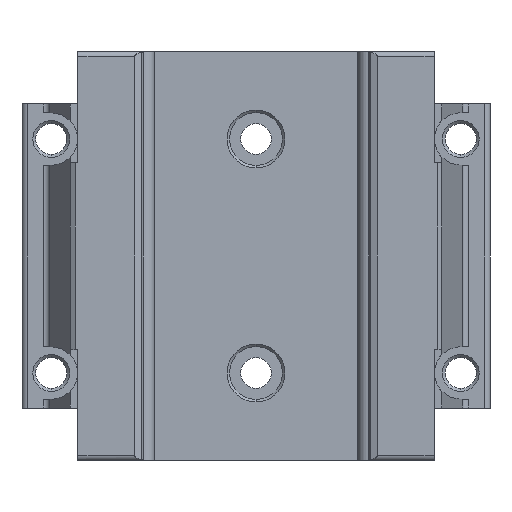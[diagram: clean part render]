
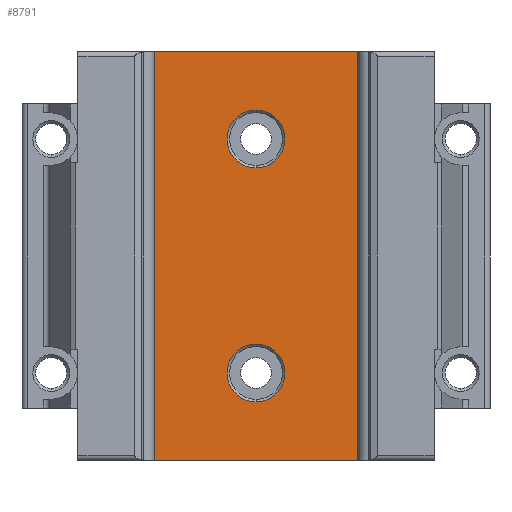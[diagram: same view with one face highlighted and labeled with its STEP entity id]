
A CAD part, front view. The second image highlights one B-rep face of the part: STEP entity #8791.
In plain terms, the highlighted planar face has unit normal (0, -1, 0).
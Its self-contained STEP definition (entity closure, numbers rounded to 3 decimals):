
#165 = CARTESIAN_POINT ( 'NONE',  ( 0., 7.5, 46. ) ) ;
#166 = DIRECTION ( 'NONE',  ( 0., -1., 0. ) ) ;
#167 = DIRECTION ( 'NONE',  ( 0., 0., -1. ) ) ;
#287 = CARTESIAN_POINT ( 'NONE',  ( 0., 7.5, 6. ) ) ;
#316 = DIRECTION ( 'NONE',  ( 0., -1., 0. ) ) ;
#317 = DIRECTION ( 'NONE',  ( 0., 0., -1. ) ) ;
#764 = EDGE_CURVE ( 'NONE', #14757, #14756, #7653, .T. ) ;
#890 = EDGE_CURVE ( 'NONE', #14598, #14610, #19767, .T. ) ;
#1017 = EDGE_CURVE ( 'NONE', #14518, #6530, #19872, .T. ) ;
#1152 = EDGE_CURVE ( 'NONE', #6460, #6483, #19948, .T. ) ;
#3229 = LINE ( 'NONE', #20753, #3230 ) ;
#3230 = VECTOR ( 'NONE', #20754, 1000. ) ;
#3235 = LINE ( 'NONE', #20759, #3236 ) ;
#3236 = VECTOR ( 'NONE', #20760, 1000. ) ;
#3239 = CIRCLE ( 'NONE', #15744, 4.95 ) ;
#3241 = CIRCLE ( 'NONE', #15743, 4.95 ) ;
#4404 = CARTESIAN_POINT ( 'NONE',  ( -19.075, 7.5, 60.95 ) ) ;
#4407 = DIRECTION ( 'NONE',  ( -1., 0., 0. ) ) ;
#4851 = CARTESIAN_POINT ( 'NONE',  ( -30.5, 7.5, -8.95 ) ) ;
#4852 = DIRECTION ( 'NONE',  ( 1., 0., 0. ) ) ;
#5876 = EDGE_LOOP ( 'NONE', ( #7228, #7229 ) ) ;
#5880 = EDGE_LOOP ( 'NONE', ( #7230, #7231 ) ) ;
#5882 = EDGE_LOOP ( 'NONE', ( #7232, #7233, #7234, #7235 ) ) ;
#6318 = FACE_BOUND ( 'NONE', #5876, .T. ) ;
#6322 = FACE_BOUND ( 'NONE', #5880, .T. ) ;
#6324 = FACE_OUTER_BOUND ( 'NONE', #5882, .T. ) ;
#6460 = VERTEX_POINT ( 'NONE', #22638 ) ;
#6483 = VERTEX_POINT ( 'NONE', #22652 ) ;
#6530 = VERTEX_POINT ( 'NONE', #22678 ) ;
#7228 = ORIENTED_EDGE ( 'NONE', *, *, #15125, .F. ) ;
#7229 = ORIENTED_EDGE ( 'NONE', *, *, #1017, .F. ) ;
#7230 = ORIENTED_EDGE ( 'NONE', *, *, #15126, .F. ) ;
#7231 = ORIENTED_EDGE ( 'NONE', *, *, #1152, .F. ) ;
#7232 = ORIENTED_EDGE ( 'NONE', *, *, #890, .T. ) ;
#7233 = ORIENTED_EDGE ( 'NONE', *, *, #15124, .T. ) ;
#7234 = ORIENTED_EDGE ( 'NONE', *, *, #764, .T. ) ;
#7235 = ORIENTED_EDGE ( 'NONE', *, *, #15121, .F. ) ;
#7653 = LINE ( 'NONE', #4404, #7670 ) ;
#7670 = VECTOR ( 'NONE', #4407, 1000. ) ;
#8791 = ADVANCED_FACE ( 'NONE', ( #6318, #6322, #6324 ), #17618, .F. ) ;
#11084 = CARTESIAN_POINT ( 'NONE',  ( 0., 7.5, 50.95 ) ) ;
#11164 = CARTESIAN_POINT ( 'NONE',  ( -19.075, 7.5, -8.95 ) ) ;
#11176 = CARTESIAN_POINT ( 'NONE',  ( 19.075, 7.5, -8.95 ) ) ;
#11322 = CARTESIAN_POINT ( 'NONE',  ( -19.075, 7.5, 60.95 ) ) ;
#11323 = CARTESIAN_POINT ( 'NONE',  ( 19.075, 7.5, 60.95 ) ) ;
#14518 = VERTEX_POINT ( 'NONE', #11084 ) ;
#14598 = VERTEX_POINT ( 'NONE', #11164 ) ;
#14610 = VERTEX_POINT ( 'NONE', #11176 ) ;
#14756 = VERTEX_POINT ( 'NONE', #11322 ) ;
#14757 = VERTEX_POINT ( 'NONE', #11323 ) ;
#15121 = EDGE_CURVE ( 'NONE', #14598, #14756, #3229, .T. ) ;
#15124 = EDGE_CURVE ( 'NONE', #14610, #14757, #3235, .T. ) ;
#15125 = EDGE_CURVE ( 'NONE', #6530, #14518, #3239, .T. ) ;
#15126 = EDGE_CURVE ( 'NONE', #6483, #6460, #3241, .T. ) ;
#15380 = AXIS2_PLACEMENT_3D ( 'NONE', #165, #166, #167 ) ;
#15411 = AXIS2_PLACEMENT_3D ( 'NONE', #287, #316, #317 ) ;
#15512 = AXIS2_PLACEMENT_3D ( 'NONE', #17622, #17623, #17624 ) ;
#15743 = AXIS2_PLACEMENT_3D ( 'NONE', #20729, #20765, #20766 ) ;
#15744 = AXIS2_PLACEMENT_3D ( 'NONE', #20731, #20762, #20763 ) ;
#17618 = PLANE ( 'NONE',  #15512 ) ;
#17622 = CARTESIAN_POINT ( 'NONE',  ( -19.075, 7.5, -9. ) ) ;
#17623 = DIRECTION ( 'NONE',  ( 0., 1., 0. ) ) ;
#17624 = DIRECTION ( 'NONE',  ( 0., 0., 1. ) ) ;
#19767 = LINE ( 'NONE', #4851, #19768 ) ;
#19768 = VECTOR ( 'NONE', #4852, 1000. ) ;
#19872 = CIRCLE ( 'NONE', #15380, 4.95 ) ;
#19948 = CIRCLE ( 'NONE', #15411, 4.95 ) ;
#20729 = CARTESIAN_POINT ( 'NONE',  ( 0., 7.5, 6. ) ) ;
#20731 = CARTESIAN_POINT ( 'NONE',  ( 0., 7.5, 46. ) ) ;
#20753 = CARTESIAN_POINT ( 'NONE',  ( -19.075, 7.5, -9. ) ) ;
#20754 = DIRECTION ( 'NONE',  ( 0., 0., 1. ) ) ;
#20759 = CARTESIAN_POINT ( 'NONE',  ( 19.075, 7.5, -9. ) ) ;
#20760 = DIRECTION ( 'NONE',  ( 0., 0., 1. ) ) ;
#20762 = DIRECTION ( 'NONE',  ( 0., -1., 0. ) ) ;
#20763 = DIRECTION ( 'NONE',  ( 0., 0., -1. ) ) ;
#20765 = DIRECTION ( 'NONE',  ( 0., -1., 0. ) ) ;
#20766 = DIRECTION ( 'NONE',  ( 0., 0., -1. ) ) ;
#22638 = CARTESIAN_POINT ( 'NONE',  ( 0., 7.5, 10.95 ) ) ;
#22652 = CARTESIAN_POINT ( 'NONE',  ( 0., 7.5, 1.05 ) ) ;
#22678 = CARTESIAN_POINT ( 'NONE',  ( 0., 7.5, 41.05 ) ) ;
